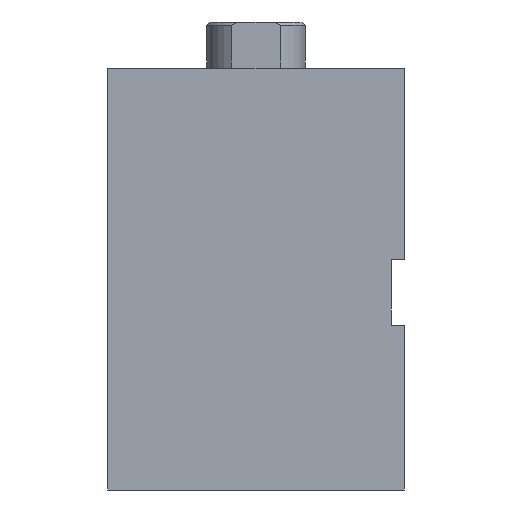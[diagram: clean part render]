
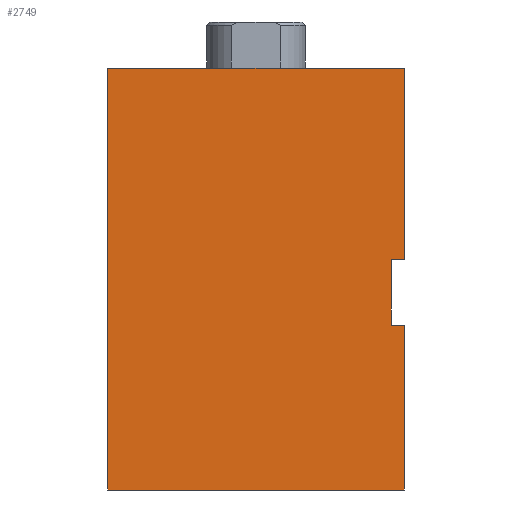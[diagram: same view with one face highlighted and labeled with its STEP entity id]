
A CAD part, front view. The second image highlights one B-rep face of the part: STEP entity #2749.
In plain terms, the highlighted planar face has unit normal (0, -1, 0).
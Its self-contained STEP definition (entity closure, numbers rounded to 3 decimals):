
#79 = VECTOR ( 'NONE', #8401, 1000. ) ;
#115 = CARTESIAN_POINT ( 'NONE',  ( 0., 0., 64. ) ) ;
#118 = VECTOR ( 'NONE', #1233, 1000. ) ;
#165 = VECTOR ( 'NONE', #7209, 1000. ) ;
#251 = CARTESIAN_POINT ( 'NONE',  ( 45., 0., 35. ) ) ;
#305 = DIRECTION ( 'NONE',  ( 1., 0., 0. ) ) ;
#396 = VERTEX_POINT ( 'NONE', #2637 ) ;
#484 = CARTESIAN_POINT ( 'NONE',  ( 43., 0., 25. ) ) ;
#834 = DIRECTION ( 'NONE',  ( 1., 0., 0. ) ) ;
#1233 = DIRECTION ( 'NONE',  ( 0., 0., -1. ) ) ;
#1548 = ORIENTED_EDGE ( 'NONE', *, *, #1572, .T. ) ;
#1572 = EDGE_CURVE ( 'NONE', #1897, #4772, #5197, .T. ) ;
#1686 = CARTESIAN_POINT ( 'NONE',  ( 45., 0., 64. ) ) ;
#1858 = VERTEX_POINT ( 'NONE', #5304 ) ;
#1897 = VERTEX_POINT ( 'NONE', #8723 ) ;
#1969 = DIRECTION ( 'NONE',  ( 0., 0., -1. ) ) ;
#1981 = AXIS2_PLACEMENT_3D ( 'NONE', #8845, #3011, #3599 ) ;
#2316 = CARTESIAN_POINT ( 'NONE',  ( 45., 0., 0. ) ) ;
#2416 = VECTOR ( 'NONE', #2541, 1000. ) ;
#2541 = DIRECTION ( 'NONE',  ( 1., 0., 0. ) ) ;
#2637 = CARTESIAN_POINT ( 'NONE',  ( 45., 0., 64. ) ) ;
#2716 = VECTOR ( 'NONE', #1969, 1000. ) ;
#2749 = ADVANCED_FACE ( 'NONE', ( #5185 ), #4665, .F. ) ;
#3011 = DIRECTION ( 'NONE',  ( 0., 1., 0. ) ) ;
#3357 = EDGE_CURVE ( 'NONE', #1858, #4237, #8809, .T. ) ;
#3525 = CARTESIAN_POINT ( 'NONE',  ( 0., 0., 64. ) ) ;
#3599 = DIRECTION ( 'NONE',  ( 0., 0., 1. ) ) ;
#3756 = CARTESIAN_POINT ( 'NONE',  ( 45., 0., 64. ) ) ;
#4131 = VERTEX_POINT ( 'NONE', #8787 ) ;
#4189 = EDGE_CURVE ( 'NONE', #9384, #1897, #6228, .T. ) ;
#4237 = VERTEX_POINT ( 'NONE', #9936 ) ;
#4381 = LINE ( 'NONE', #115, #7733 ) ;
#4435 = LINE ( 'NONE', #484, #79 ) ;
#4536 = LINE ( 'NONE', #1686, #165 ) ;
#4665 = PLANE ( 'NONE',  #1981 ) ;
#4772 = VERTEX_POINT ( 'NONE', #2316 ) ;
#4789 = LINE ( 'NONE', #7317, #2416 ) ;
#5073 = VECTOR ( 'NONE', #305, 1000. ) ;
#5185 = FACE_OUTER_BOUND ( 'NONE', #5287, .T. ) ;
#5197 = LINE ( 'NONE', #9755, #5073 ) ;
#5287 = EDGE_LOOP ( 'NONE', ( #9186, #8795, #10187, #7632, #10216, #1548, #7622, #9714 ) ) ;
#5304 = CARTESIAN_POINT ( 'NONE',  ( 43., 0., 35. ) ) ;
#5682 = LINE ( 'NONE', #3756, #10115 ) ;
#6228 = LINE ( 'NONE', #3525, #2716 ) ;
#7047 = EDGE_CURVE ( 'NONE', #4237, #4131, #4435, .T. ) ;
#7209 = DIRECTION ( 'NONE',  ( 0., 0., -1. ) ) ;
#7317 = CARTESIAN_POINT ( 'NONE',  ( 43., 0., 35. ) ) ;
#7622 = ORIENTED_EDGE ( 'NONE', *, *, #7859, .F. ) ;
#7632 = ORIENTED_EDGE ( 'NONE', *, *, #10217, .F. ) ;
#7733 = VECTOR ( 'NONE', #834, 1000. ) ;
#7859 = EDGE_CURVE ( 'NONE', #4131, #4772, #5682, .T. ) ;
#8401 = DIRECTION ( 'NONE',  ( 1., 0., 0. ) ) ;
#8723 = CARTESIAN_POINT ( 'NONE',  ( 0., 0., 0. ) ) ;
#8787 = CARTESIAN_POINT ( 'NONE',  ( 45., 0., 25. ) ) ;
#8795 = ORIENTED_EDGE ( 'NONE', *, *, #9419, .T. ) ;
#8809 = LINE ( 'NONE', #9977, #118 ) ;
#8845 = CARTESIAN_POINT ( 'NONE',  ( 0., 0., 64. ) ) ;
#8868 = VERTEX_POINT ( 'NONE', #251 ) ;
#9098 = EDGE_CURVE ( 'NONE', #396, #8868, #4536, .T. ) ;
#9186 = ORIENTED_EDGE ( 'NONE', *, *, #3357, .F. ) ;
#9381 = DIRECTION ( 'NONE',  ( 0., 0., -1. ) ) ;
#9384 = VERTEX_POINT ( 'NONE', #9710 ) ;
#9419 = EDGE_CURVE ( 'NONE', #1858, #8868, #4789, .T. ) ;
#9710 = CARTESIAN_POINT ( 'NONE',  ( 0., 0., 64. ) ) ;
#9714 = ORIENTED_EDGE ( 'NONE', *, *, #7047, .F. ) ;
#9755 = CARTESIAN_POINT ( 'NONE',  ( 0., 0., 0. ) ) ;
#9936 = CARTESIAN_POINT ( 'NONE',  ( 43., 0., 25. ) ) ;
#9977 = CARTESIAN_POINT ( 'NONE',  ( 43., 0., 35. ) ) ;
#10115 = VECTOR ( 'NONE', #9381, 1000. ) ;
#10187 = ORIENTED_EDGE ( 'NONE', *, *, #9098, .F. ) ;
#10216 = ORIENTED_EDGE ( 'NONE', *, *, #4189, .T. ) ;
#10217 = EDGE_CURVE ( 'NONE', #9384, #396, #4381, .T. ) ;
